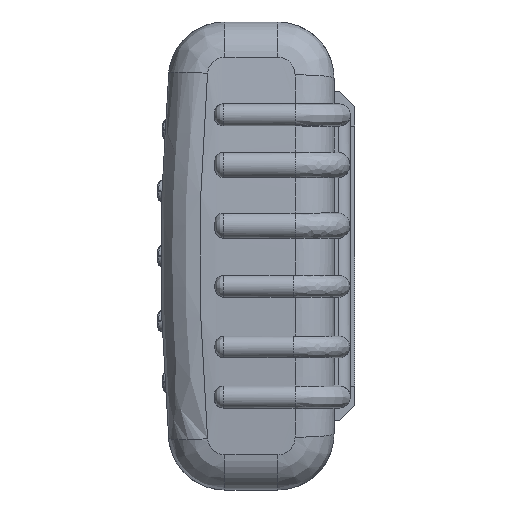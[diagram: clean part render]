
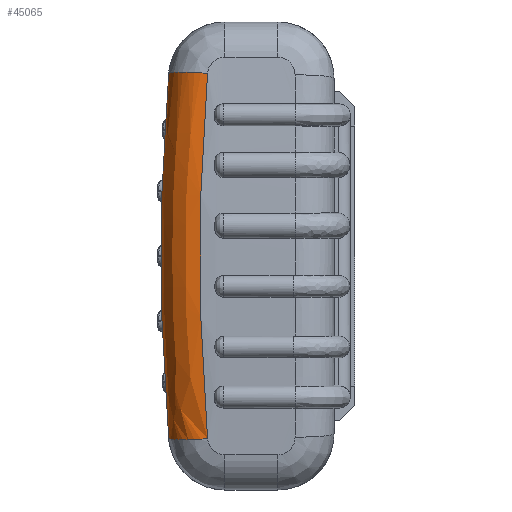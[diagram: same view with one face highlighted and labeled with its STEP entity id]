
A CAD part, left-side view. The second image highlights one B-rep face of the part: STEP entity #45065.
In plain terms, the highlighted free-form (B-spline) face has degree [3, 2] with [6, 3] control points.
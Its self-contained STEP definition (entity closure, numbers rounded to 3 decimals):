
#399 = CARTESIAN_POINT ( 'NONE',  ( 78.259, 29.188, -41.339 ) ) ;
#1110 = CARTESIAN_POINT ( 'NONE',  ( 89.121, 30.941, 14.212 ) ) ;
#1986 = ORIENTED_EDGE ( 'NONE', *, *, #23929, .F. ) ;
#3340 = CARTESIAN_POINT ( 'NONE',  ( 88.486, 30.354, 28.156 ) ) ;
#3770 = DIRECTION ( 'NONE',  ( -0.996, 0., -0.09 ) ) ;
#4523 = EDGE_CURVE ( 'NONE', #37489, #27199, #31610, .T. ) ;
#4727 = CARTESIAN_POINT ( 'NONE',  ( 78.259, 38.156, 42.101 ) ) ;
#4739 = DIRECTION ( 'NONE',  ( 0.996, 0., -0.09 ) ) ;
#5455 = CARTESIAN_POINT ( 'NONE',  ( 80.121, 39.941, 14.196 ) ) ;
#8189 = ORIENTED_EDGE ( 'NONE', *, *, #47257, .F. ) ;
#9465 = CARTESIAN_POINT ( 'NONE',  ( 80.121, 39.941, -14.101 ) ) ;
#9822 = CARTESIAN_POINT ( 'NONE',  ( 89.121, 39.941, -14.469 ) ) ;
#11511 = CARTESIAN_POINT ( 'NONE',  ( 87.222, 29.188, -42.148 ) ) ;
#12827 = VERTEX_POINT ( 'NONE', #52222 ) ;
#12912 = CARTESIAN_POINT ( 'NONE',  ( 87.222, 29.188, 42.148 ) ) ;
#13280 = AXIS2_PLACEMENT_3D ( 'NONE', #55417, #29634, #3770 ) ;
#13821 = CARTESIAN_POINT ( 'NONE',  ( 78.259, 38.156, -42.101 ) ) ;
#14164 = CARTESIAN_POINT ( 'NONE',  ( 88.476, 30.346, -28.258 ) ) ;
#18464 = CARTESIAN_POINT ( 'NONE',  ( 79.489, 39.335, -28.227 ) ) ;
#18718 = EDGE_LOOP ( 'NONE', ( #1986, #47887, #8189, #21049 ) ) ;
#20519 = CARTESIAN_POINT ( 'NONE',  ( 88.486, 30.354, -28.156 ) ) ;
#21049 = ORIENTED_EDGE ( 'NONE', *, *, #52658, .T. ) ;
#22651 = CARTESIAN_POINT ( 'NONE',  ( 88.476, 30.346, 28.258 ) ) ;
#22840 = CARTESIAN_POINT ( 'NONE',  ( 87.154, 38.088, -42.898 ) ) ;
#23929 = EDGE_CURVE ( 'NONE', #37489, #26658, #35181, .T. ) ;
#24379 = FACE_OUTER_BOUND ( 'NONE', #18718, .T. ) ;
#25631 = AXIS2_PLACEMENT_3D ( 'NONE', #399, #30618, #4739 ) ;
#26655 = CARTESIAN_POINT ( 'NONE',  ( 79.497, 39.343, 28.135 ) ) ;
#26658 = VERTEX_POINT ( 'NONE', #12912 ) ;
#26998 = CARTESIAN_POINT ( 'NONE',  ( 79.489, 39.335, 28.227 ) ) ;
#27199 = VERTEX_POINT ( 'NONE', #34507 ) ;
#29217 = CARTESIAN_POINT ( 'NONE',  ( 89.121, 30.941, 14.107 ) ) ;
#29634 = DIRECTION ( 'NONE',  ( 0.09, 0.084, -0.992 ) ) ;
#30618 = DIRECTION ( 'NONE',  ( 0.09, 0.084, 0.992 ) ) ;
#30947 = CARTESIAN_POINT ( 'NONE',  ( 87.154, 38.088, 42.898 ) ) ;
#31319 = CARTESIAN_POINT ( 'NONE',  ( 89.121, 39.941, 14.469 ) ) ;
#31610 = CIRCLE ( 'NONE', #25631, 9. ) ;
#33562 = CARTESIAN_POINT ( 'NONE',  ( 87.222, 29.188, 42.148 ) ) ;
#34507 = CARTESIAN_POINT ( 'NONE',  ( 78.259, 38.156, -42.101 ) ) ;
#35181 = B_SPLINE_CURVE_WITH_KNOTS ( 'NONE', 3,
 ( #37685, #20519, #55015, #29217, #3340, #33562 ),
 .UNSPECIFIED., .F., .F.,
 ( 4, 2, 4 ),
 ( 0.004, 0.046, 0.088 ),
 .UNSPECIFIED. ) ;
#35304 = CARTESIAN_POINT ( 'NONE',  ( 80.121, 39.941, 14.101 ) ) ;
#35669 = CARTESIAN_POINT ( 'NONE',  ( 89.121, 30.941, -14.212 ) ) ;
#37489 = VERTEX_POINT ( 'NONE', #11511 ) ;
#37685 = CARTESIAN_POINT ( 'NONE',  ( 87.222, 29.188, -42.148 ) ) ;
#37718 = B_SPLINE_CURVE_WITH_KNOTS ( 'NONE', 3,
 ( #4727, #26655, #35304, #9465, #39623, #13821 ),
 .UNSPECIFIED., .F., .F.,
 ( 4, 2, 4 ),
 ( 0.012, 0.054, 0.096 ),
 .UNSPECIFIED. ) ;
#39623 = CARTESIAN_POINT ( 'NONE',  ( 79.497, 39.343, -28.135 ) ) ;
#39954 = CARTESIAN_POINT ( 'NONE',  ( 80.121, 39.941, -14.196 ) ) ;
#44103 = CARTESIAN_POINT ( 'NONE',  ( 87.222, 29.188, 42.148 ) ) ;
#44290 = CARTESIAN_POINT ( 'NONE',  ( 88.456, 39.314, -28.734 ) ) ;
#45065 = ADVANCED_FACE ( 'NONE', ( #24379 ), #54294, .T. ) ;
#45985 = CIRCLE ( 'NONE', #13280, 9. ) ;
#47257 = EDGE_CURVE ( 'NONE', #12827, #27199, #37718, .T. ) ;
#47887 = ORIENTED_EDGE ( 'NONE', *, *, #4523, .T. ) ;
#48432 = CARTESIAN_POINT ( 'NONE',  ( 78.259, 38.156, 42.101 ) ) ;
#48611 = CARTESIAN_POINT ( 'NONE',  ( 87.222, 29.188, -42.148 ) ) ;
#52222 = CARTESIAN_POINT ( 'NONE',  ( 78.259, 38.156, 42.101 ) ) ;
#52658 = EDGE_CURVE ( 'NONE', #12827, #26658, #45985, .T. ) ;
#52765 = CARTESIAN_POINT ( 'NONE',  ( 88.456, 39.314, 28.734 ) ) ;
#52969 = CARTESIAN_POINT ( 'NONE',  ( 78.259, 38.156, -42.101 ) ) ;
#54294 =( BOUNDED_SURFACE ( )  B_SPLINE_SURFACE ( 3, 2, ( 
 ( #44103, #30947, #48432 ),
 ( #22651, #52765, #26998 ),
 ( #1110, #31319, #5455 ),
 ( #35669, #9822, #39954 ),
 ( #14164, #44290, #18464 ),
 ( #48611, #22840, #52969 ) ),
 .UNSPECIFIED., .F., .F., .F. ) 
 B_SPLINE_SURFACE_WITH_KNOTS ( ( 4, 2, 4 ),
 ( 3, 3 ),
 ( 0.084, 0.125, 0.166 ),
 ( 0., 1. ),
 .UNSPECIFIED. ) 
 GEOMETRIC_REPRESENTATION_ITEM ( )  RATIONAL_B_SPLINE_SURFACE ( (
 ( 1., 0.71, 1.),
 ( 1., 0.708, 1.),
 ( 1., 0.707, 1.),
 ( 1., 0.707, 1.),
 ( 1., 0.708, 1.),
 ( 1., 0.71, 1.) ) ) 
 REPRESENTATION_ITEM ( '' )  SURFACE ( )  );
#55015 = CARTESIAN_POINT ( 'NONE',  ( 89.121, 30.941, -14.107 ) ) ;
#55417 = CARTESIAN_POINT ( 'NONE',  ( 78.259, 29.188, 41.339 ) ) ;
